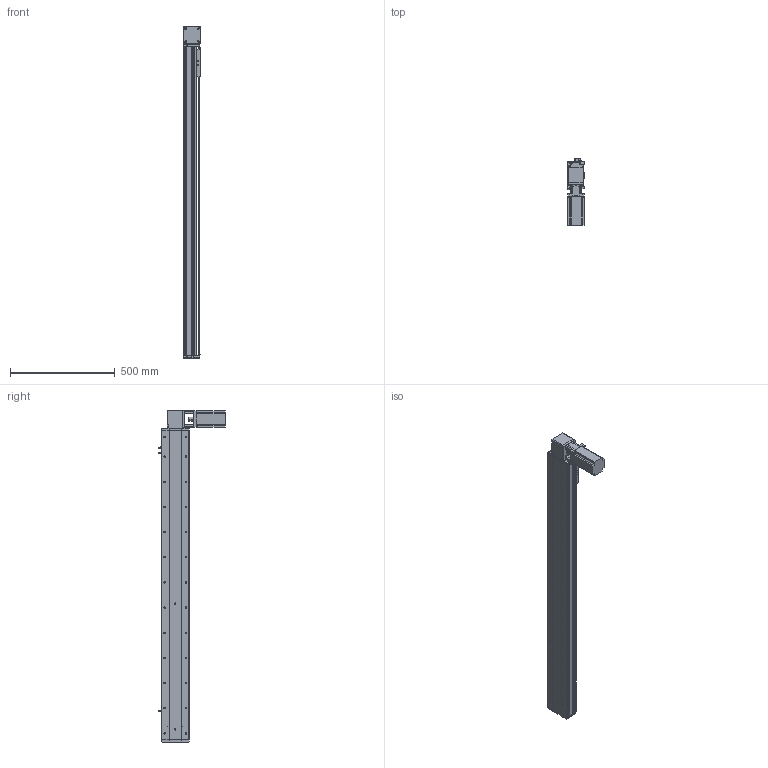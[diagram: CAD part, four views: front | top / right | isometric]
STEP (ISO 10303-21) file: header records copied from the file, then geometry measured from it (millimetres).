
FILE_DESCRIPTION (( 'STEP AP214' ), '1' );
FILE_NAME ('KSD130B-S1250-MRT-CM.STEP', '2019-11-16T03:42:29', ( '微软用户' ), ( '微软中国' ), 'SwSTEP 2.0', 'SolidWorks 2014', '' );
FILE_SCHEMA (( 'AUTOMOTIVE_DESIGN' ));
Length unit declared in the file: millimetre
Products named in the file (12): 130宽盖板半封闭同步带-1250行程; 130宽马达安装板同步带左-改; 130宽马达安装板同步带半封闭; 130宽同步带安装座半封闭; 130宽端盖同步带半封闭; 130宽底板半封闭同步带-1250行程; KSD130B-S1250-MRT-CM; 台达ECMA－C20807AS伺服电机; 130宽马达安装板1-带电机座750W（1）; 覜茼え100遵圉猾敕; U倰嫖萇EEㄜSX672; 130宽安装板同步带带电机座750W
Assembly tree (13 placements, depth 2):
  KSD130B-S1250-MRT-CM
    130宽底板半封闭同步带-1250行程
    130宽端盖同步带半封闭
    130宽同步带安装座半封闭
    130宽马达安装板同步带半封闭
    130宽马达安装板同步带左-改
    130宽盖板半封闭同步带-1250行程
    130宽安装板同步带带电机座750W
    U倰嫖萇EEㄜSX672  x3
    覜茼え100遵圉猾敕
    130宽马达安装板1-带电机座750W（1）
    台达ECMA－C20807AS伺服电机
Bounding box: 81 x 316 x 1583 mm (x, y, z)
Volume: 5637596.5 mm3; surface area: 1519760.6 mm2
Topology: 14 solids, 14 shells, 1589 faces, 4572 edges, 2911 vertices
Faces by surface type: cylinder 775, plane 617, cone 197
Entity records: 53055 total; most frequent: CARTESIAN_POINT 10041, DIRECTION 8038, ORIENTED_EDGE 7748, EDGE_CURVE 3874, AXIS2_PLACEMENT_3D 2960, VERTEX_POINT 2535, VECTOR 2118, LINE 2118
